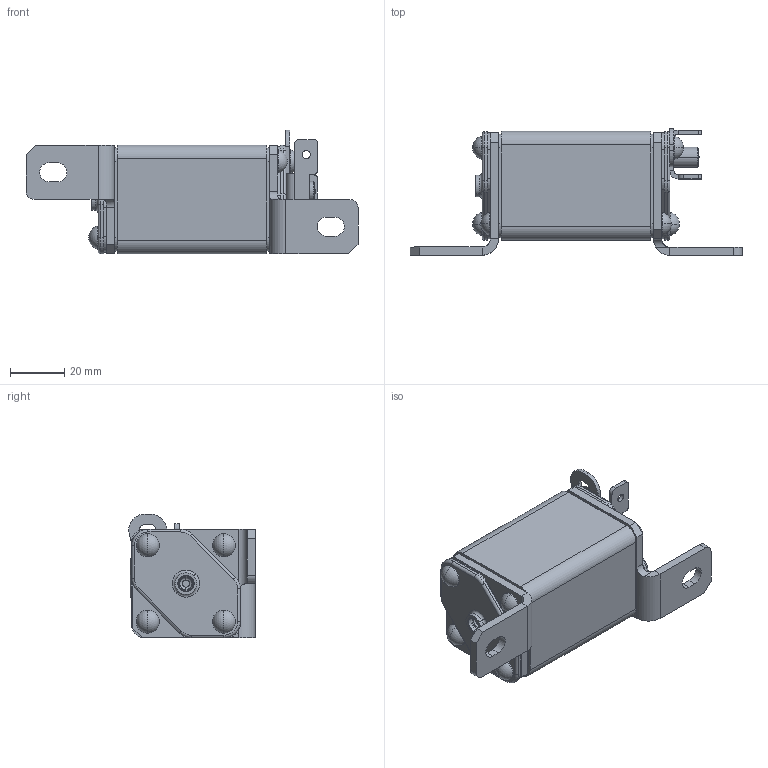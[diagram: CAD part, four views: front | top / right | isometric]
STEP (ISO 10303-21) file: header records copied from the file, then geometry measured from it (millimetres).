
FILE_DESCRIPTION (( 'STEP AP214' ), '1' );
FILE_NAME ('砎槼隰譇膻蠈錪 珫57-31372-XXXA-XXXX-忡曖.STEP', '2023-05-10T05:50:13', ( '' ), ( '' ), 'SwSTEP 2.0', 'SolidWorks 2018', '' );
FILE_SCHEMA (( 'AUTOMOTIVE_DESIGN' ));
Length unit declared in the file: millimetre
Products named in the file (1): 砎槼隰譇膻蠈錪 珫57-31372-XXXA-XXXX-忡曖
Bounding box: 122 x 46.48 x 45.5 mm (x, y, z)
Volume: 109012.6 mm3; surface area: 42953.9 mm2
Topology: 23 solids, 23 shells, 505 faces, 1193 edges, 754 vertices
Faces by surface type: cylinder 238, plane 181, torus 46, cone 24, sphere 16
Entity records: 20684 total; most frequent: DIRECTION 2799, CARTESIAN_POINT 2555, ORIENTED_EDGE 2386, EDGE_CURVE 1193, AXIS2_PLACEMENT_3D 1106, VERTEX_POINT 754, EDGE_LOOP 611, CIRCLE 600
